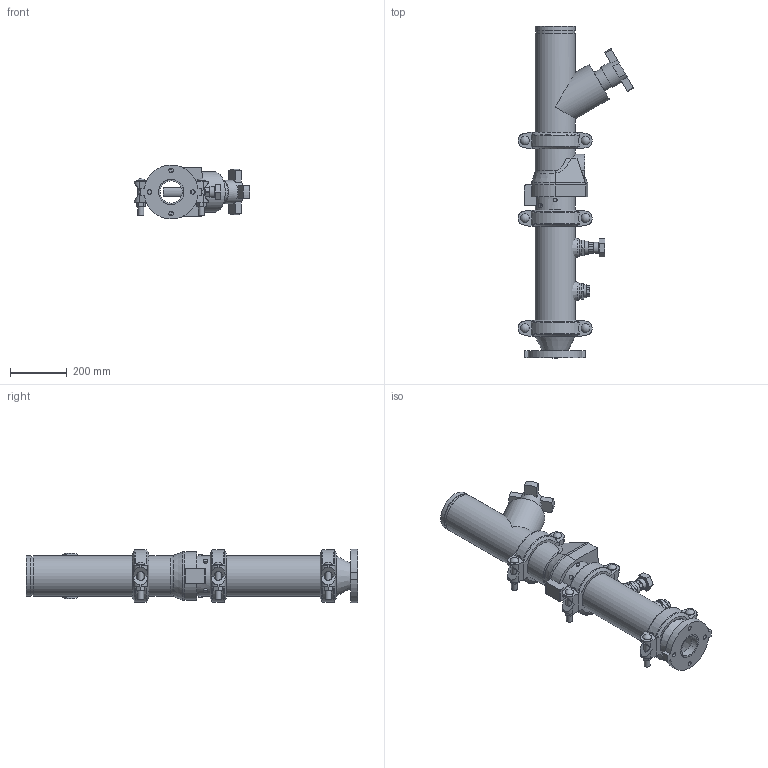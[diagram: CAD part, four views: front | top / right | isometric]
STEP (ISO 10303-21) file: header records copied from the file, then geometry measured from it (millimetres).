
FILE_DESCRIPTION(/* description */ ('VIC DVI PUMP DROP VERT S/383 (OGSxFLG) (S/924-1.25)','CAx-IF Rec.Pracs.---Representation and Presentation of Product Manufacturing Information (PMI)---4.0---2014-10-13'),/* implementation_level */ '2;1');
FILE_NAME(/* name */ 'C:\Users\Public\Documents\Victaulic.Temp\A849\Victaulic_IPS_Vertical DVI_CL 150_Series 383 (OGSxFLG)_924 (1.25)_05.0x03.0 (125x80).stp',/* time_stamp */ '2022-07-25T11:39:40+02:00',/* author */ ('Vjadhav'),/* organization */ ('Victaulic'),/* preprocessor_version */ 'ST-DEVELOPER v18',/* originating_system */ 'Autodesk Inventor 2020',/* authorisation */ '');
FILE_SCHEMA (('AP242_MANAGED_MODEL_BASED_3D_ENGINEERING_MIM_LF { 1 0 10303 442 1 1 4 }'));
Length unit declared in the file: inch
Products named in the file (9): 383_924 (1.25)-05.0x03.0; 741-03.0; 050-05.0x03.0; Pipe-05.0; 177N-05.0; 789-05.0; 779-05.0; 924-04.0x01.25; 923-04.0x0.75
Assembly tree (10 placements, depth 2):
  383_924 (1.25)-05.0x03.0
    741-03.0
    050-05.0x03.0
    177N-05.0  x3
    Pipe-05.0
    789-05.0
    779-05.0
    924-04.0x01.25
    923-04.0x0.75
Bounding box: 406.02 x 1168.4 x 189.82 mm (x, y, z)
Volume: 10491184.4 mm3; surface area: 1679880 mm2
Topology: 10 solids, 11 shells, 544 faces, 1457 edges, 975 vertices
Faces by surface type: plane 321, cylinder 178, cone 19, torus 18, sphere 6, bspline 2
Full cylindrical faces by diameter (mm): 13.716 x4, 15.875 x4, 21.209 x6, 21.336 x1, 26.67 x2, 30.48 x6, 38.608 x1, 42.164 x1, 45.974 x4, 48.514 x1, 55.626 x2, 75.26 x1, 77.927 x1, 82.55 x1, 84.938 x1, 88.9 x3, 128.194 x4, 128.6 x3, 137.033 x7, 141.3 x19
Entity records: 12412 total; most frequent: CARTESIAN_POINT 2512, DIRECTION 2035, ORIENTED_EDGE 1862, EDGE_CURVE 931, AXIS2_PLACEMENT_3D 772, VERTEX_POINT 631, LINE 491, VECTOR 491
